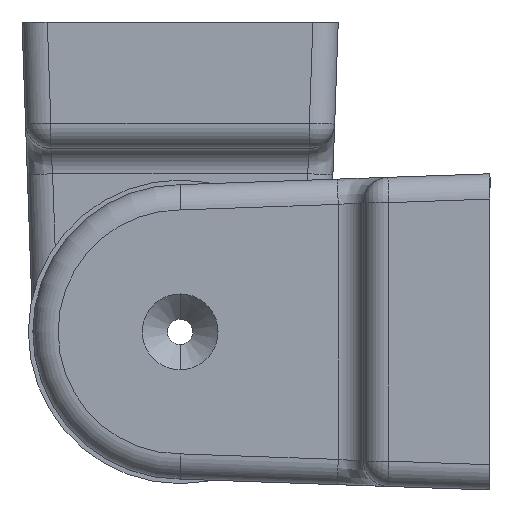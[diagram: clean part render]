
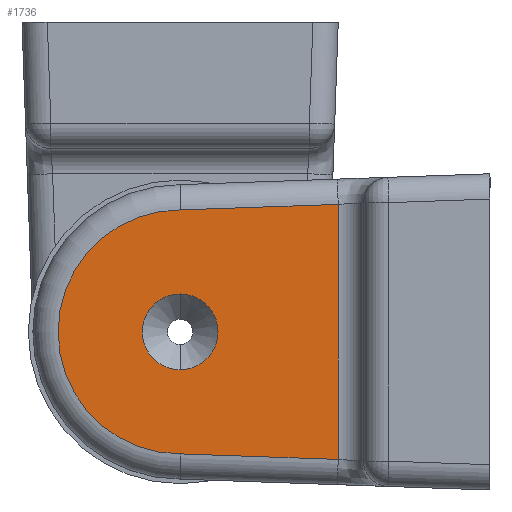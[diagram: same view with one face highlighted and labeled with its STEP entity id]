
A CAD part, left-side view. The second image highlights one B-rep face of the part: STEP entity #1736.
In plain terms, the highlighted planar face has unit normal (-1, 0, 0).
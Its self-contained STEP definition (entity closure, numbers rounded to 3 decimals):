
#58 = AXIS2_PLACEMENT_3D ( 'NONE', #540, #1130, #2017 ) ;
#96 = AXIS2_PLACEMENT_3D ( 'NONE', #1406, #1602, #1617 ) ;
#122 = EDGE_CURVE ( 'NONE', #2285, #1968, #1910, .T. ) ;
#134 = AXIS2_PLACEMENT_3D ( 'NONE', #823, #1865, #1154 ) ;
#159 = ORIENTED_EDGE ( 'NONE', *, *, #1153, .T. ) ;
#166 = CIRCLE ( 'NONE', #1608, 9.644 ) ;
#221 = ORIENTED_EDGE ( 'NONE', *, *, #1545, .T. ) ;
#262 = CARTESIAN_POINT ( 'NONE',  ( -51., -0.033, -9.644 ) ) ;
#296 = CIRCLE ( 'NONE', #58, 3. ) ;
#300 = VERTEX_POINT ( 'NONE', #529 ) ;
#371 = EDGE_CURVE ( 'NONE', #1631, #300, #296, .T. ) ;
#437 = VECTOR ( 'NONE', #2339, 1000. ) ;
#492 = CARTESIAN_POINT ( 'NONE',  ( -51., 0., 9.644 ) ) ;
#528 = ORIENTED_EDGE ( 'NONE', *, *, #1748, .T. ) ;
#529 = CARTESIAN_POINT ( 'NONE',  ( -51., 0., 3. ) ) ;
#540 = CARTESIAN_POINT ( 'NONE',  ( -51., 0., 0. ) ) ;
#604 = CARTESIAN_POINT ( 'NONE',  ( -51., -14.582, -10.152 ) ) ;
#609 = CARTESIAN_POINT ( 'NONE',  ( -51., -13.71, 10.122 ) ) ;
#628 = VERTEX_POINT ( 'NONE', #1584 ) ;
#649 = DIRECTION ( 'NONE',  ( 0., 0.999, -0.035 ) ) ;
#750 = ORIENTED_EDGE ( 'NONE', *, *, #1319, .T. ) ;
#823 = CARTESIAN_POINT ( 'NONE',  ( -51., 0., 0. ) ) ;
#825 = DIRECTION ( 'NONE',  ( 1., 0., 0. ) ) ;
#842 = FACE_OUTER_BOUND ( 'NONE', #1137, .T. ) ;
#852 = FACE_BOUND ( 'NONE', #2048, .T. ) ;
#1044 = ORIENTED_EDGE ( 'NONE', *, *, #2200, .T. ) ;
#1045 = VECTOR ( 'NONE', #1322, 1000. ) ;
#1082 = CARTESIAN_POINT ( 'NONE',  ( -51., -12.5, 12.151 ) ) ;
#1130 = DIRECTION ( 'NONE',  ( 1., 0., 0. ) ) ;
#1137 = EDGE_LOOP ( 'NONE', ( #1531, #159, #2172, #750, #221, #528 ) ) ;
#1151 = VERTEX_POINT ( 'NONE', #1180 ) ;
#1153 = EDGE_CURVE ( 'NONE', #1610, #2285, #2233, .T. ) ;
#1154 = DIRECTION ( 'NONE',  ( 0., 0., -1. ) ) ;
#1180 = CARTESIAN_POINT ( 'NONE',  ( -51., -12.5, -10.08 ) ) ;
#1319 = EDGE_CURVE ( 'NONE', #1968, #628, #166, .T. ) ;
#1322 = DIRECTION ( 'NONE',  ( 0., -0.999, -0.035 ) ) ;
#1354 = EDGE_CURVE ( 'NONE', #1151, #1610, #1996, .T. ) ;
#1370 = ORIENTED_EDGE ( 'NONE', *, *, #371, .T. ) ;
#1387 = CARTESIAN_POINT ( 'NONE',  ( -51., 0., -3. ) ) ;
#1406 = CARTESIAN_POINT ( 'NONE',  ( -51., 0., 0. ) ) ;
#1420 = DIRECTION ( 'NONE',  ( 0., 0., -1. ) ) ;
#1479 = CARTESIAN_POINT ( 'NONE',  ( -51., 0., 0. ) ) ;
#1496 = CARTESIAN_POINT ( 'NONE',  ( -51., -0.033, 9.644 ) ) ;
#1531 = ORIENTED_EDGE ( 'NONE', *, *, #1354, .T. ) ;
#1545 = EDGE_CURVE ( 'NONE', #628, #2286, #1982, .T. ) ;
#1565 = CARTESIAN_POINT ( 'NONE',  ( -51., -14.5, -12.5 ) ) ;
#1580 = DIRECTION ( 'NONE',  ( 0., 0., -1. ) ) ;
#1584 = CARTESIAN_POINT ( 'NONE',  ( -51., 0., -9.644 ) ) ;
#1602 = DIRECTION ( 'NONE',  ( -1., 0., 0. ) ) ;
#1605 = VECTOR ( 'NONE', #649, 1000. ) ;
#1608 = AXIS2_PLACEMENT_3D ( 'NONE', #1479, #1663, #1806 ) ;
#1610 = VERTEX_POINT ( 'NONE', #2270 ) ;
#1617 = DIRECTION ( 'NONE',  ( 0., 0., -1. ) ) ;
#1631 = VERTEX_POINT ( 'NONE', #1387 ) ;
#1663 = DIRECTION ( 'NONE',  ( -1., 0., 0. ) ) ;
#1736 = ADVANCED_FACE ( 'NONE', ( #852, #842 ), #1937, .F. ) ;
#1748 = EDGE_CURVE ( 'NONE', #2286, #1151, #2303, .T. ) ;
#1806 = DIRECTION ( 'NONE',  ( 0., 0., -1. ) ) ;
#1865 = DIRECTION ( 'NONE',  ( -1., 0., 0. ) ) ;
#1910 = CIRCLE ( 'NONE', #96, 9.644 ) ;
#1912 = AXIS2_PLACEMENT_3D ( 'NONE', #1565, #2288, #1580 ) ;
#1915 = AXIS2_PLACEMENT_3D ( 'NONE', #2078, #825, #1420 ) ;
#1937 = PLANE ( 'NONE',  #1912 ) ;
#1968 = VERTEX_POINT ( 'NONE', #492 ) ;
#1982 = CIRCLE ( 'NONE', #134, 9.644 ) ;
#1996 = LINE ( 'NONE', #1082, #437 ) ;
#2017 = DIRECTION ( 'NONE',  ( 0., 0., -1. ) ) ;
#2048 = EDGE_LOOP ( 'NONE', ( #1044, #1370 ) ) ;
#2078 = CARTESIAN_POINT ( 'NONE',  ( -51., 0., 0. ) ) ;
#2172 = ORIENTED_EDGE ( 'NONE', *, *, #122, .T. ) ;
#2200 = EDGE_CURVE ( 'NONE', #300, #1631, #2295, .T. ) ;
#2233 = LINE ( 'NONE', #609, #1605 ) ;
#2270 = CARTESIAN_POINT ( 'NONE',  ( -51., -12.5, 10.08 ) ) ;
#2285 = VERTEX_POINT ( 'NONE', #1496 ) ;
#2286 = VERTEX_POINT ( 'NONE', #262 ) ;
#2288 = DIRECTION ( 'NONE',  ( 1., 0., 0. ) ) ;
#2295 = CIRCLE ( 'NONE', #1915, 3. ) ;
#2303 = LINE ( 'NONE', #604, #1045 ) ;
#2339 = DIRECTION ( 'NONE',  ( 0., 0., 1. ) ) ;
